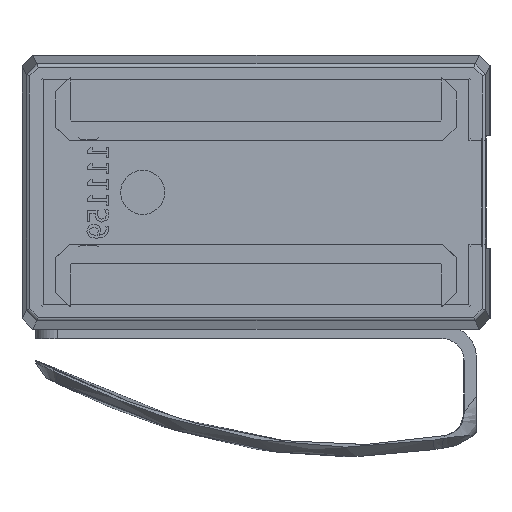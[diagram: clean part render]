
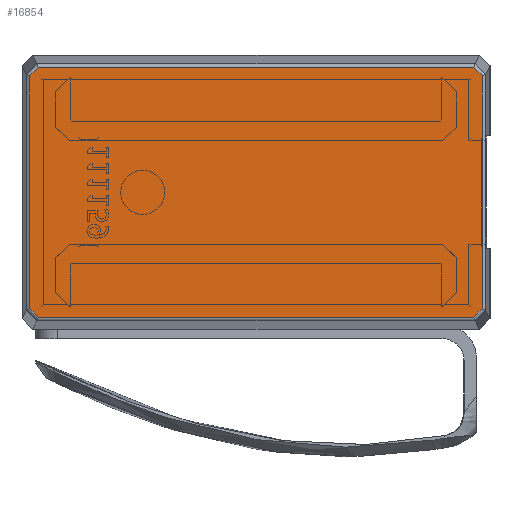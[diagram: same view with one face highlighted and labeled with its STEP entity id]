
A CAD part, left-side view. The second image highlights one B-rep face of the part: STEP entity #16854.
In plain terms, the highlighted planar face has unit normal (-1, 0, 0).
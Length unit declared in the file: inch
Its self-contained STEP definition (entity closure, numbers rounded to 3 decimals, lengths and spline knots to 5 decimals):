
#1409=FACE_OUTER_BOUND('',#2254,.T.);
#2254=EDGE_LOOP('',(#12053,#12054,#12055,#12056,#12057,#12058,#12059,#12060));
#3453=LINE('',#26073,#5188);
#3454=LINE('',#26075,#5189);
#3455=LINE('',#26077,#5190);
#3456=LINE('',#26079,#5191);
#3457=LINE('',#26081,#5192);
#3458=LINE('',#26083,#5193);
#3459=LINE('',#26085,#5194);
#3460=LINE('',#26086,#5195);
#5188=VECTOR('',#19949,1.32087);
#5189=VECTOR('',#19950,0.06844);
#5190=VECTOR('',#19951,2.4697);
#5191=VECTOR('',#19952,0.06844);
#5192=VECTOR('',#19953,1.32087);
#5193=VECTOR('',#19954,0.06844);
#5194=VECTOR('',#19955,2.4697);
#5195=VECTOR('',#19956,0.06844);
#7033=VERTEX_POINT('',#26071);
#7034=VERTEX_POINT('',#26072);
#7035=VERTEX_POINT('',#26074);
#7036=VERTEX_POINT('',#26076);
#7037=VERTEX_POINT('',#26078);
#7038=VERTEX_POINT('',#26080);
#7039=VERTEX_POINT('',#26082);
#7040=VERTEX_POINT('',#26084);
#8925=EDGE_CURVE('',#7033,#7034,#3453,.T.);
#8926=EDGE_CURVE('',#7035,#7033,#3454,.T.);
#8927=EDGE_CURVE('',#7036,#7035,#3455,.T.);
#8928=EDGE_CURVE('',#7037,#7036,#3456,.T.);
#8929=EDGE_CURVE('',#7038,#7037,#3457,.T.);
#8930=EDGE_CURVE('',#7039,#7038,#3458,.T.);
#8931=EDGE_CURVE('',#7040,#7039,#3459,.T.);
#8932=EDGE_CURVE('',#7034,#7040,#3460,.T.);
#12053=ORIENTED_EDGE('',*,*,#8925,.F.);
#12054=ORIENTED_EDGE('',*,*,#8926,.F.);
#12055=ORIENTED_EDGE('',*,*,#8927,.F.);
#12056=ORIENTED_EDGE('',*,*,#8928,.F.);
#12057=ORIENTED_EDGE('',*,*,#8929,.F.);
#12058=ORIENTED_EDGE('',*,*,#8930,.F.);
#12059=ORIENTED_EDGE('',*,*,#8931,.F.);
#12060=ORIENTED_EDGE('',*,*,#8932,.F.);
#15353=PLANE('',#17837);
#16854=ADVANCED_FACE('',(#1409),#15353,.F.);
#17837=AXIS2_PLACEMENT_3D('',#26070,#19947,#19948);
#19947=DIRECTION('center_axis',(1.,0.,0.));
#19948=DIRECTION('ref_axis',(0.,0.,-1.));
#19949=DIRECTION('',(0.,0.,-1.));
#19950=DIRECTION('',(0.,-0.706,-0.708));
#19951=DIRECTION('',(0.,-1.,0.));
#19952=DIRECTION('',(0.,-0.706,0.708));
#19953=DIRECTION('',(0.,0.,1.));
#19954=DIRECTION('',(0.,0.706,0.708));
#19955=DIRECTION('',(0.,1.,0.));
#19956=DIRECTION('',(0.,0.706,-0.708));
#26070=CARTESIAN_POINT('Origin',(-15.75,0.,0.));
#26071=CARTESIAN_POINT('',(-15.75,-1.2832,0.66043));
#26072=CARTESIAN_POINT('',(-15.75,-1.2832,-0.66043));
#26073=CARTESIAN_POINT('',(-15.75,-1.2832,-0.19438));
#26074=CARTESIAN_POINT('',(-15.75,-1.23485,0.70888));
#26075=CARTESIAN_POINT('',(-15.75,-1.11351,0.83045));
#26076=CARTESIAN_POINT('',(-15.75,1.23485,0.70888));
#26077=CARTESIAN_POINT('',(-15.75,-0.33188,0.70888));
#26078=CARTESIAN_POINT('',(-15.75,1.2832,0.66043));
#26079=CARTESIAN_POINT('',(-15.75,1.11347,0.83049));
#26080=CARTESIAN_POINT('',(-15.75,1.2832,-0.66043));
#26081=CARTESIAN_POINT('',(-15.75,1.2832,0.19438));
#26082=CARTESIAN_POINT('',(-15.75,1.23485,-0.70888));
#26083=CARTESIAN_POINT('',(-15.75,1.11351,-0.83045));
#26084=CARTESIAN_POINT('',(-15.75,-1.23485,-0.70888));
#26085=CARTESIAN_POINT('',(-15.75,0.33188,-0.70888));
#26086=CARTESIAN_POINT('',(-15.75,-1.11347,-0.83049));
